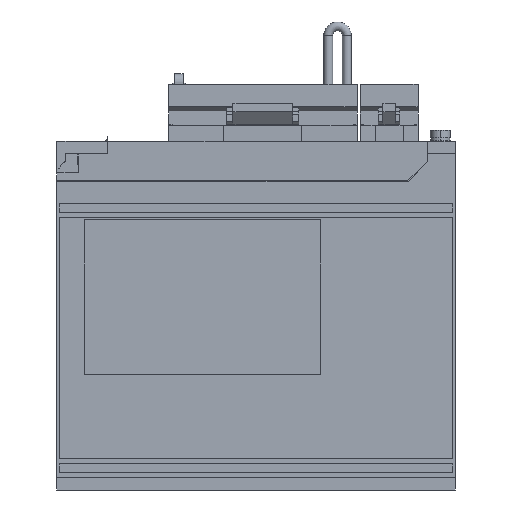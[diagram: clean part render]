
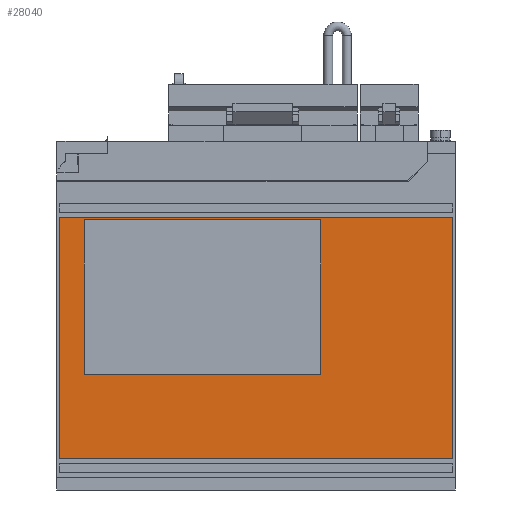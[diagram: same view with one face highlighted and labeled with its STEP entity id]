
A CAD part, left-side view. The second image highlights one B-rep face of the part: STEP entity #28040.
In plain terms, the highlighted planar face has unit normal (-1, 0, 0).
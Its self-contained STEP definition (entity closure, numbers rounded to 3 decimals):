
#28038 = EDGE_CURVE ( 'NONE', #28062, #28110, #50854, .T. ) ;
#28040 = ADVANCED_FACE ( 'NONE', ( #50850, #50849 ), #50848, .T. ) ;
#28041 = EDGE_LOOP ( 'NONE', ( #28095, #28098, #28101, #28104 ) ) ;
#28042 = VERTEX_POINT ( 'NONE', #50843 ) ;
#28047 = EDGE_CURVE ( 'NONE', #28048, #28065, #50840, .T. ) ;
#28048 = VERTEX_POINT ( 'NONE', #50897 ) ;
#28062 = VERTEX_POINT ( 'NONE', #50876 ) ;
#28064 = EDGE_CURVE ( 'NONE', #28065, #28062, #50875, .T. ) ;
#28065 = VERTEX_POINT ( 'NONE', #50871 ) ;
#28082 = ORIENTED_EDGE ( 'NONE', *, *, #28038, .T. ) ;
#28083 = ORIENTED_EDGE ( 'NONE', *, *, #28109, .T. ) ;
#28084 = ORIENTED_EDGE ( 'NONE', *, *, #28047, .T. ) ;
#28095 = ORIENTED_EDGE ( 'NONE', *, *, #28096, .F. ) ;
#28096 = EDGE_CURVE ( 'NONE', #28042, #28097, #50956, .T. ) ;
#28097 = VERTEX_POINT ( 'NONE', #50952 ) ;
#28098 = ORIENTED_EDGE ( 'NONE', *, *, #28099, .F. ) ;
#28099 = EDGE_CURVE ( 'NONE', #28100, #28042, #50951, .T. ) ;
#28100 = VERTEX_POINT ( 'NONE', #50947 ) ;
#28101 = ORIENTED_EDGE ( 'NONE', *, *, #28102, .F. ) ;
#28102 = EDGE_CURVE ( 'NONE', #28103, #28100, #50946, .T. ) ;
#28103 = VERTEX_POINT ( 'NONE', #50942 ) ;
#28104 = ORIENTED_EDGE ( 'NONE', *, *, #28105, .F. ) ;
#28105 = EDGE_CURVE ( 'NONE', #28097, #28103, #50941, .T. ) ;
#28106 = EDGE_LOOP ( 'NONE', ( #28107, #28082, #28083, #28084 ) ) ;
#28107 = ORIENTED_EDGE ( 'NONE', *, *, #28064, .T. ) ;
#28109 = EDGE_CURVE ( 'NONE', #28110, #28048, #50937, .T. ) ;
#28110 = VERTEX_POINT ( 'NONE', #50933 ) ;
#50833 = DIRECTION ( 'NONE',  ( 0., 0., 1. ) ) ;
#50834 = VECTOR ( 'NONE', #50833, 1000. ) ;
#50835 = CARTESIAN_POINT ( 'NONE',  ( -34.7, -154., 12.5 ) ) ;
#50840 = LINE ( 'NONE', #50835, #50834 ) ;
#50843 = CARTESIAN_POINT ( 'NONE',  ( -34.7, -6., 108.5 ) ) ;
#50844 = DIRECTION ( 'NONE',  ( 0., 0., 1. ) ) ;
#50845 = DIRECTION ( 'NONE',  ( -1., 0., 0. ) ) ;
#50846 = CARTESIAN_POINT ( 'NONE',  ( -34.7, -154., 109.5 ) ) ;
#50847 = AXIS2_PLACEMENT_3D ( 'NONE', #50846, #50845, #50844 ) ;
#50848 = PLANE ( 'NONE',  #50847 ) ;
#50849 = FACE_OUTER_BOUND ( 'NONE', #28106, .T. ) ;
#50850 = FACE_BOUND ( 'NONE', #28041, .T. ) ;
#50851 = DIRECTION ( 'NONE',  ( 0., 0., -1. ) ) ;
#50852 = VECTOR ( 'NONE', #50851, 1000. ) ;
#50853 = CARTESIAN_POINT ( 'NONE',  ( -34.7, 4., 12.5 ) ) ;
#50854 = LINE ( 'NONE', #50853, #50852 ) ;
#50871 = CARTESIAN_POINT ( 'NONE',  ( -34.7, -154., 109.5 ) ) ;
#50872 = DIRECTION ( 'NONE',  ( 0., 1., 0. ) ) ;
#50873 = VECTOR ( 'NONE', #50872, 1000. ) ;
#50874 = CARTESIAN_POINT ( 'NONE',  ( -34.7, 4., 109.5 ) ) ;
#50875 = LINE ( 'NONE', #50874, #50873 ) ;
#50876 = CARTESIAN_POINT ( 'NONE',  ( -34.7, 4., 109.5 ) ) ;
#50897 = CARTESIAN_POINT ( 'NONE',  ( -34.7, -154., 12.5 ) ) ;
#50933 = CARTESIAN_POINT ( 'NONE',  ( -34.7, 4., 12.5 ) ) ;
#50934 = DIRECTION ( 'NONE',  ( 0., -1., 0. ) ) ;
#50935 = VECTOR ( 'NONE', #50934, 1000. ) ;
#50936 = CARTESIAN_POINT ( 'NONE',  ( -34.7, 4., 12.5 ) ) ;
#50937 = LINE ( 'NONE', #50936, #50935 ) ;
#50938 = DIRECTION ( 'NONE',  ( 0., -1., 0. ) ) ;
#50939 = VECTOR ( 'NONE', #50938, 1000. ) ;
#50940 = CARTESIAN_POINT ( 'NONE',  ( -34.7, -154., 46.5 ) ) ;
#50941 = LINE ( 'NONE', #50940, #50939 ) ;
#50942 = CARTESIAN_POINT ( 'NONE',  ( -34.7, -101., 46.5 ) ) ;
#50943 = DIRECTION ( 'NONE',  ( 0., 0., 1. ) ) ;
#50944 = VECTOR ( 'NONE', #50943, 1000. ) ;
#50945 = CARTESIAN_POINT ( 'NONE',  ( -34.7, -101., 109.5 ) ) ;
#50946 = LINE ( 'NONE', #50945, #50944 ) ;
#50947 = CARTESIAN_POINT ( 'NONE',  ( -34.7, -101., 108.5 ) ) ;
#50948 = DIRECTION ( 'NONE',  ( 0., 1., 0. ) ) ;
#50949 = VECTOR ( 'NONE', #50948, 1000. ) ;
#50950 = CARTESIAN_POINT ( 'NONE',  ( -34.7, -154., 108.5 ) ) ;
#50951 = LINE ( 'NONE', #50950, #50949 ) ;
#50952 = CARTESIAN_POINT ( 'NONE',  ( -34.7, -6., 46.5 ) ) ;
#50953 = DIRECTION ( 'NONE',  ( 0., 0., -1. ) ) ;
#50954 = VECTOR ( 'NONE', #50953, 1000. ) ;
#50955 = CARTESIAN_POINT ( 'NONE',  ( -34.7, -6., 109.5 ) ) ;
#50956 = LINE ( 'NONE', #50955, #50954 ) ;
